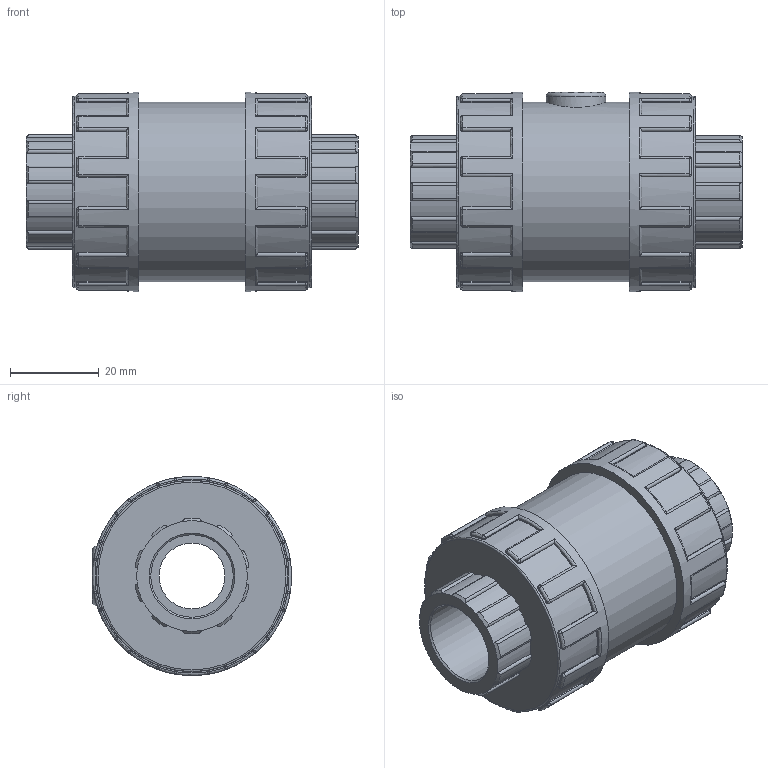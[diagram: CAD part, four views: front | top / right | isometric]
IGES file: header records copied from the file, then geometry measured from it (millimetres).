
Global section: file name: 116410005.ipt; native system: Autodesk Inventor 2015; preprocessor: unknown; author: KIM; date: 20171207.170705; units: millimetre
Bounding box: 75 x 45 x 45 mm (x, y, z)
Volume: 71725.1 mm3; surface area: 16629.6 mm2
Topology: 1 solids, 1 shells, 411 faces, 1033 edges, 630 vertices
Faces by surface type: cylinder 182, plane 105, revolution 56, sphere 48, cone 20
Full cylindrical faces by diameter (mm): 13.5 x1, 40.5 x1, 43.2 x2, 45 x2
